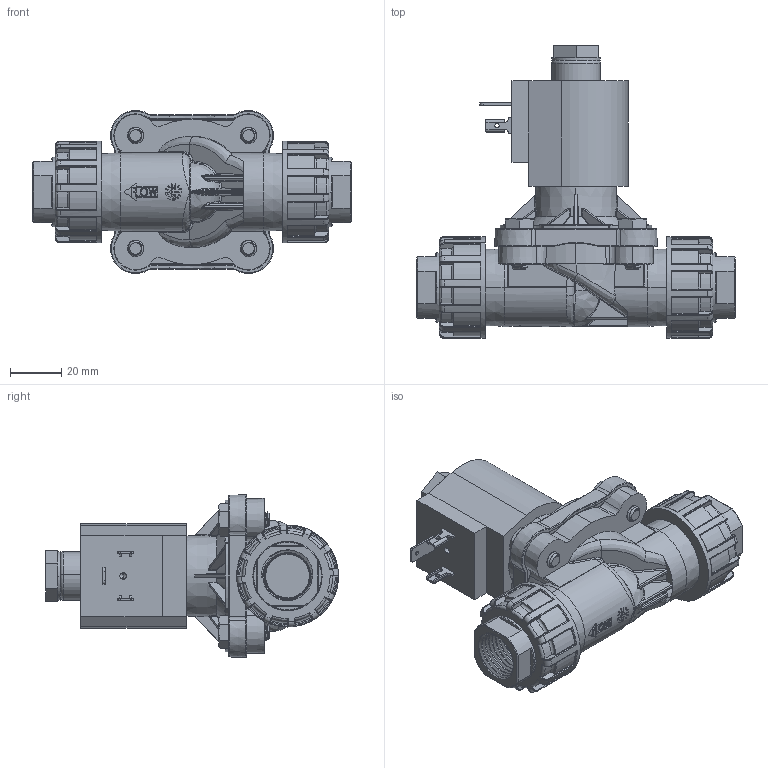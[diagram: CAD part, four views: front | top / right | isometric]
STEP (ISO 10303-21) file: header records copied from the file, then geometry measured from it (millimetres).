
FILE_DESCRIPTION (( 'STEP AP203' ), '1' );
FILE_NAME ('T202YxxxxPD2.STEP', '2024-05-06T16:19:49', ( '' ), ( '' ), 'SwSTEP 2.0', 'SolidWorks 2023', '' );
FILE_SCHEMA (( 'CONFIG_CONTROL_DESIGN' ));
Length unit declared in the file: millimetre
Products named in the file (1): T202YxxxxPD2
Bounding box: 124 x 114.13 x 63.5 mm (x, y, z)
Volume: 214766.9 mm3; surface area: 41998.9 mm2
Topology: 1 solids, 1 shells, 2490 faces, 6463 edges, 3941 vertices
Faces by surface type: bspline 884, plane 662, cylinder 382, torus 276, cone 201, sphere 85
Entity records: 119275 total; most frequent: CARTESIAN_POINT 66270, ORIENTED_EDGE 12696, DIRECTION 8734, EDGE_CURVE 6348, VERTEX_POINT 3938, AXIS2_PLACEMENT_3D 3256, EDGE_LOOP 2574, FACE_OUTER_BOUND 2490
